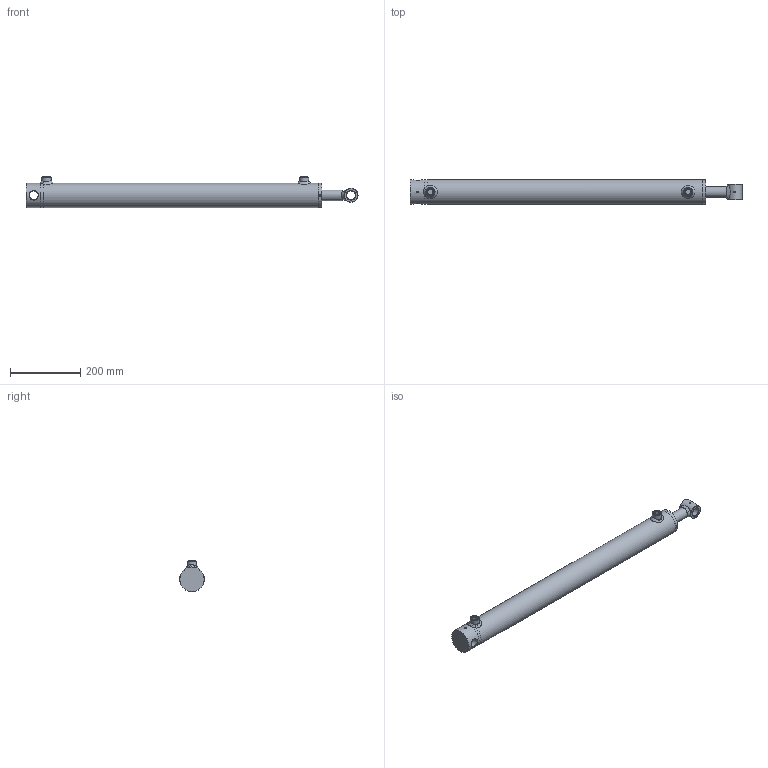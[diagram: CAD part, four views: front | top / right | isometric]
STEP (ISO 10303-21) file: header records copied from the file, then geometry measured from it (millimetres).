
FILE_DESCRIPTION( ( 'Unknown' ), '1' );
FILE_NAME( 'E:/LIBRERIA_3d/CILINDRI/HFR2S/HFR2S0600300700.stp', 'Unknown', ( 'Unknown' ), ( 'Unknown' ), 'PSStep 17.0.49', 'Unknown', ' ' );
FILE_SCHEMA( ( 'AUTOMOTIVE_DESIGN { 1 0 10303 214 1 1 1 1 }' ) );
Length unit declared in the file: millimetre
Products named in the file (21): CG07006030; CTBF060M24-oa4; CTBF060M24-oa3; STF2R0600500700-oa7; Saldatura d'angolo 1-oa5; CBS0600000; MAT_PRIMA_TUBO_FT07006000-oa6; Assem1; CFHR060025047; Saldatura con preparazione 1-oa0; Saldatura d'angolo 1-oa1; Saldatura d'angolo 2-oa2; CBF1025040045; APG0600000; SBF2R300600700-oa8; AVG3006080
Assembly tree (16 placements, depth 3):
  Saldatura d'angolo 1-oa5
  Saldatura d'angolo 1-oa5
  Assem1
    CFHR060025047
    CBS0600000
    Saldatura con preparazione 1-oa0
    Saldatura con preparazione 1-oa0
    CBF1025040045
    APG0600000  x2
    SBF2R300600700-oa8
    AVG3006080
    CG07006030
      CG07006030
    CTBF060M24-oa4
      CTBF060M24-oa3
    STF2R0600500700-oa7
      CBS0600000
      MAT_PRIMA_TUBO_FT07006000-oa6
  Saldatura d'angolo 1-oa1
  Saldatura d'angolo 1-oa1
Bounding box: 942 x 70 x 89 mm (x, y, z)
Volume: 1761339.4 mm3; surface area: 504529.6 mm2
Topology: 19 solids, 19 shells, 263 faces, 564 edges, 343 vertices
Faces by surface type: cylinder 63, plane 62, bspline 56, cone 44, torus 38
Full cylindrical faces by diameter (mm): 5 x4, 5.5 x2, 6 x3, 7 x2, 14.95 x2, 16 x3, 16.6 x2, 22 x3, 24 x1, 25 x3, 25.25 x2, 26 x2, 29.5 x1, 30 x4, 32 x1, 33 x1, 38.6 x1, 40 x2, 48 x1, 55 x1, 56 x2, 59.4 x2, 59.9 x1, 60 x1, 60.3 x1, 60.5 x1, 60.6 x1, 61 x1, 62 x3, 62.376 x1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
Entity records: 15766 total; most frequent: CARTESIAN_POINT 9424, DIRECTION 786, ORIENTED_EDGE 682, EDGE_LOOP 426, AXIS2_PLACEMENT_3D 382, FACE_OUTER_BOUND 346, EDGE_CURVE 341, VERTEX_POINT 278
